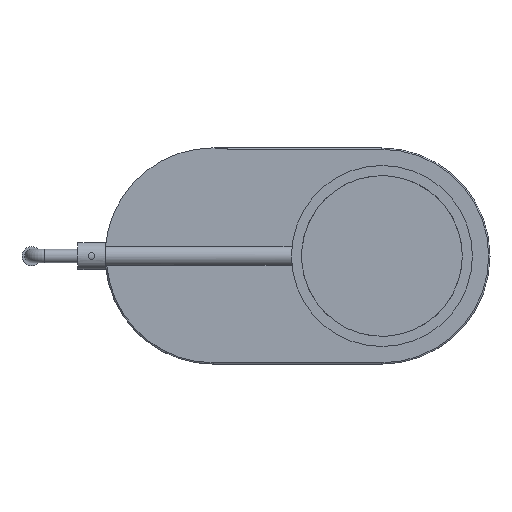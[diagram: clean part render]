
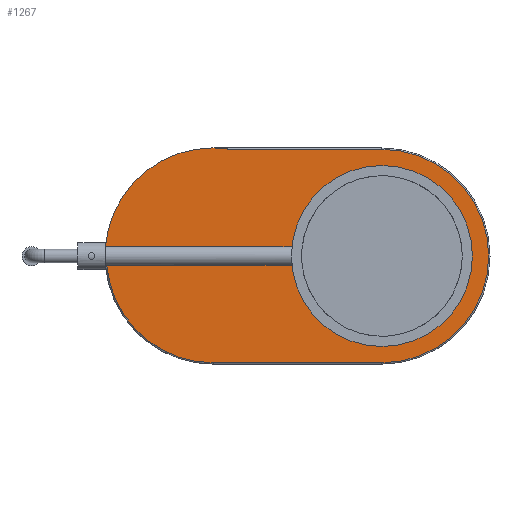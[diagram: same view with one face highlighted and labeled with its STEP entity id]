
A CAD part, top view. The second image highlights one B-rep face of the part: STEP entity #1267.
In plain terms, the highlighted planar face has unit normal (0, 0, 1).
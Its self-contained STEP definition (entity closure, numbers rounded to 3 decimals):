
#387=CARTESIAN_POINT('',(0.0,-79.0,3.));
#388=VERTEX_POINT('',#387);
#396=CARTESIAN_POINT('',(-125.0,-79.0,3.));
#397=VERTEX_POINT('',#396);
#398=CARTESIAN_POINT('',(0.0,-79.0,3.));
#399=DIRECTION('',(-1.0,0.0,0.0));
#400=VECTOR('',#399,125.0);
#401=LINE('',#398,#400);
#402=EDGE_CURVE('',#388,#397,#401,.T.);
#420=CARTESIAN_POINT('',(0.,79.0,3.));
#421=VERTEX_POINT('',#420);
#429=CARTESIAN_POINT('',(0.0,0.0,3.));
#430=DIRECTION('',(0.0,0.0,-1.0));
#431=DIRECTION('',(1.0,0.0,0.0));
#432=AXIS2_PLACEMENT_3D('',#429,#430,#431);
#433=CIRCLE('',#432,79.0);
#434=EDGE_CURVE('',#421,#388,#433,.T.);
#446=CARTESIAN_POINT('',(-203.729,-6.874,3.));
#447=VERTEX_POINT('',#446);
#465=CARTESIAN_POINT('',(-124.995,0.036,3.));
#466=DIRECTION('',(0.0,0.0,-1.));
#467=DIRECTION('',(-0.676,-0.737,0.0));
#468=AXIS2_PLACEMENT_3D('',#465,#466,#467);
#469=CIRCLE('',#468,79.036);
#470=EDGE_CURVE('',#397,#447,#469,.T.);
#480=CARTESIAN_POINT('',(-111.936,79.0,3.));
#481=VERTEX_POINT('',#480);
#505=CARTESIAN_POINT('',(-111.936,79.0,3.));
#506=DIRECTION('',(1.0,0.0,0.0));
#507=VECTOR('',#506,111.936);
#508=LINE('',#505,#507);
#509=EDGE_CURVE('',#481,#421,#508,.T.);
#1170=CARTESIAN_POINT('',(-60.611,-6.874,3.0));
#1171=VERTEX_POINT('',#1170);
#1172=CARTESIAN_POINT('',(-60.611,-6.874,3.));
#1173=DIRECTION('',(-1.0,0.0,0.0));
#1174=VECTOR('',#1173,143.117);
#1175=LINE('',#1172,#1174);
#1176=EDGE_CURVE('',#1171,#447,#1175,.T.);
#1178=CARTESIAN_POINT('',(-60.611,6.874,3.0));
#1179=VERTEX_POINT('',#1178);
#1197=CARTESIAN_POINT('',(-204.739,6.874,3.));
#1198=VERTEX_POINT('',#1197);
#1199=CARTESIAN_POINT('',(-204.739,6.874,3.));
#1200=DIRECTION('',(1.0,0.0,0.0));
#1201=VECTOR('',#1200,144.127);
#1202=LINE('',#1199,#1201);
#1203=EDGE_CURVE('',#1198,#1179,#1202,.T.);
#1240=CARTESIAN_POINT('',(-62.466,-0.024,3.));
#1241=DIRECTION('',(0.0,0.0,1.0));
#1242=DIRECTION('',(1.0,0.0,0.0));
#1243=AXIS2_PLACEMENT_3D('',#1240,#1241,#1242);
#1244=PLANE('',#1243);
#1245=CARTESIAN_POINT('',(-124.995,0.036,3.));
#1246=DIRECTION('',(0.0,0.0,-1.0));
#1247=DIRECTION('',(-0.043,-0.999,0.0));
#1248=AXIS2_PLACEMENT_3D('',#1245,#1246,#1247);
#1249=CIRCLE('',#1248,80.036);
#1250=EDGE_CURVE('',#1198,#481,#1249,.T.);
#1251=ORIENTED_EDGE('',*,*,#1250,.F.);
#1252=ORIENTED_EDGE('',*,*,#1203,.T.);
#1253=CARTESIAN_POINT('',(0.0,0.0,3.));
#1254=DIRECTION('',(0.0,0.0,1.0));
#1255=DIRECTION('',(-1.0,0.0,0.0));
#1256=AXIS2_PLACEMENT_3D('',#1253,#1254,#1255);
#1257=CIRCLE('',#1256,61.);
#1258=EDGE_CURVE('',#1171,#1179,#1257,.T.);
#1259=ORIENTED_EDGE('',*,*,#1258,.F.);
#1260=ORIENTED_EDGE('',*,*,#1176,.T.);
#1261=ORIENTED_EDGE('',*,*,#470,.F.);
#1262=ORIENTED_EDGE('',*,*,#402,.F.);
#1263=ORIENTED_EDGE('',*,*,#434,.F.);
#1264=ORIENTED_EDGE('',*,*,#509,.F.);
#1265=EDGE_LOOP('',(#1251,#1252,#1259,#1260,#1261,#1262,#1263,#1264));
#1266=FACE_OUTER_BOUND('',#1265,.T.);
#1267=ADVANCED_FACE('',(#1266),#1244,.T.);
